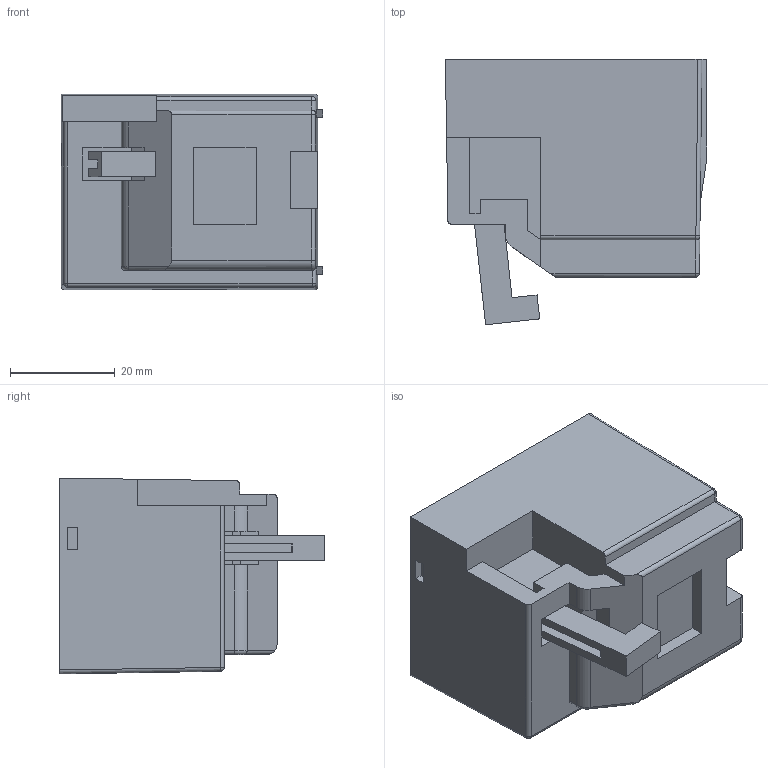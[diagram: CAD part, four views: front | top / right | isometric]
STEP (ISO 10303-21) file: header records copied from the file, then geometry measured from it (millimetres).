
FILE_DESCRIPTION(/* description */ (''),/* implementation_level */ '2;1');
FILE_NAME(/* name */ '2023.11.10.stp',/* time_stamp */ '2023-11-10T14:11:27+08:00',/* author */ (''),/* organization */ (''),/* preprocessor_version */ 'ST-DEVELOPER v16',/* originating_system */ 'SIEMENS PLM Software NX 10.0',/* authorisation */ '');
FILE_SCHEMA (('AUTOMOTIVE_DESIGN { 1 0 10303 214 3 1 1 1 }'));
Length unit declared in the file: millimetre
Products named in the file (1): midi08580DE3vsc0
Bounding box: 49.9 x 50.71 x 37.4 mm (x, y, z)
Volume: 62548.2 mm3; surface area: 11851.6 mm2
Topology: 1 solids, 1 shells, 97 faces, 258 edges, 164 vertices
Faces by surface type: plane 73, cylinder 18, sphere 4, torus 1, bspline 1
Entity records: 2988 total; most frequent: CARTESIAN_POINT 547, ORIENTED_EDGE 508, DIRECTION 480, EDGE_CURVE 254, LINE 216, VECTOR 216, VERTEX_POINT 164, AXIS2_PLACEMENT_3D 132
